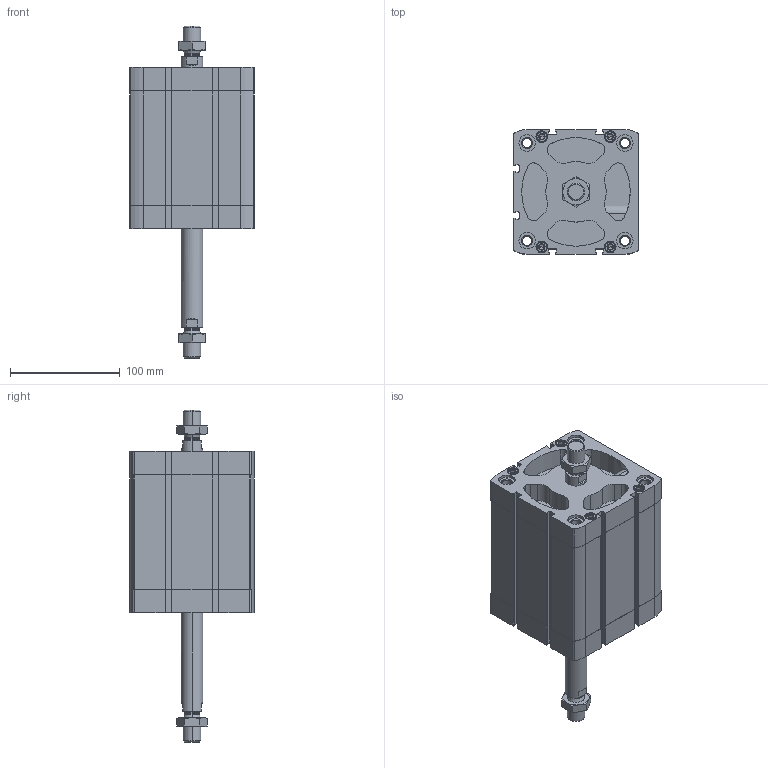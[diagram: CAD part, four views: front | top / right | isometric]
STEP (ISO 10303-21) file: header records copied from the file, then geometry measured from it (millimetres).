
FILE_DESCRIPTION (( 'STEP AP203' ), '1' );
FILE_NAME ('CCN100-80-P.STEP', '2020-06-22T19:12:14', ( '' ), ( '' ), 'SwSTEP 2.0', 'SolidWorks 2019', '' );
FILE_SCHEMA (( 'CONFIG_CONTROL_DESIGN' ));
Length unit declared in the file: millimetre
Products named in the file (1): CCN100-80-P
Bounding box: 113.5 x 113.5 x 302.4 mm (x, y, z)
Volume: 1107437.6 mm3; surface area: 233969.3 mm2
Topology: 4 solids, 4 shells, 685 faces, 1757 edges, 1118 vertices
Faces by surface type: plane 305, cylinder 280, cone 92, torus 8
Entity records: 22642 total; most frequent: CARTESIAN_POINT 5549, DIRECTION 3721, ORIENTED_EDGE 3482, EDGE_CURVE 1741, AXIS2_PLACEMENT_3D 1392, VERTEX_POINT 1118, VECTOR 937, LINE 937
